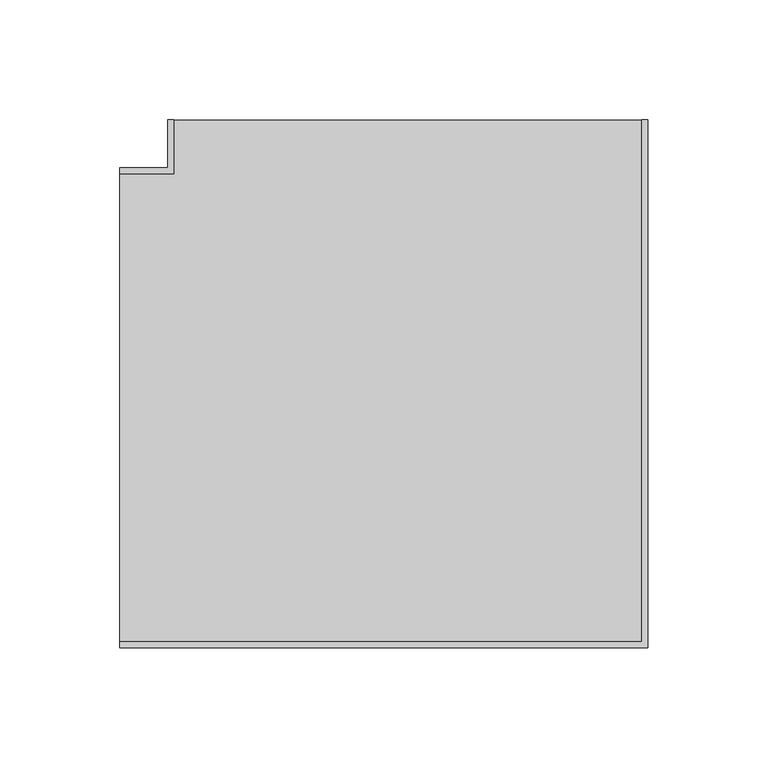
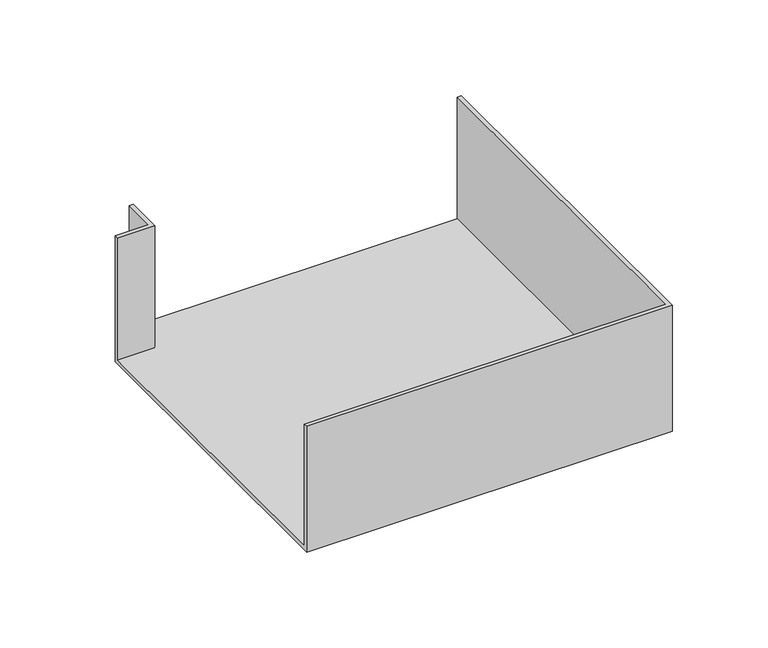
"""IFC4 building model written with IfcOpenShell, lengths in millimetres: cable carrier fitting geometry, КНС_УголПлоский NPAN_ILC_DKC : Угол плоский NPAN_DKC."""

from ifc_helpers import new_model, si_unit, origin, place, context, project, spatial, faceted_brep, source, transform, mapped, element, save


def cable_carrier_fitting_fade92e3(model_context):
    return source(origin(), model_context, "Body", "Brep", [
        faceted_brep([(-120.0, 100.0, -40.0), (-120.0, -100.0, -40.0), (-120.0, -100.0, 40.0), (-120.0, -97.5, 40.0), (-120.0, -97.5, -37.5), (-120.0, 97.5, -37.5), (-120.0, 97.5, 40.0), (-120.0, 100.0, 40.0), (-100.0, 100.0, -40.0), (-100.0, 120.0, -40.0), (100.0, 120.0, -40.0), (100.0, -100.0, -40.0), (100.0, -100.0, 40.0), (100.0, 120.0, 40.0), (97.5, 120.0, 40.0), (97.5, -97.5, 40.0), (97.5, -97.5, -37.5), (97.5, 120.0, -37.5), (-97.5, 120.0, -37.5), (-97.5, 97.5, -37.5), (-97.5, 97.5, 40.0), (-97.5, 120.0, 40.0), (-100.0, 120.0, 40.0), (-100.0, 100.0, 40.0)], [[[0, 1, 2, 3, 4, 5, 6, 7]], [[1, 0, 8, 9, 10, 11]], [[2, 1, 11, 12]], [[3, 2, 12, 13, 14, 15]], [[4, 3, 15, 16]], [[5, 4, 16, 17, 18, 19]], [[6, 5, 19, 20]], [[7, 6, 20, 21, 22, 23]], [[0, 7, 23, 8]], [[9, 22, 21, 18, 17, 14, 13, 10]], [[12, 11, 10, 13]], [[16, 15, 14, 17]], [[20, 19, 18, 21]], [[8, 23, 22, 9]]]),
    ])


if __name__ == "__main__":
    model = new_model("IFC4")
    model_context = context("Model", 3, world=origin())
    ifc_project = project(units=[si_unit("LENGTHUNIT", "METRE", prefix="MILLI")], contexts=[model_context])
    site = spatial("IfcSite", under=ifc_project)
    building = spatial("IfcBuilding", under=site)
    placement = place(None, origin())
    cable_carrier_fitting_shape = cable_carrier_fitting_fade92e3(model_context)
    element("IfcCableCarrierFitting", 1, ObjectType="КНС_УголПлоский NPAN_ILC_DKC : Угол плоский NPAN_DKC", at=placement, inside=building, context=model_context, shape_type="MappedRepresentation", body=[
        mapped(cable_carrier_fitting_shape, transform((0.0, 0.0, 0.0), x_axis=(1.0, 0.0, 0.0), y_axis=(0.0, 1.0, 0.0), z_axis=(0.0, 0.0, 1.0))),
    ])
    save(model, "model.ifc")
